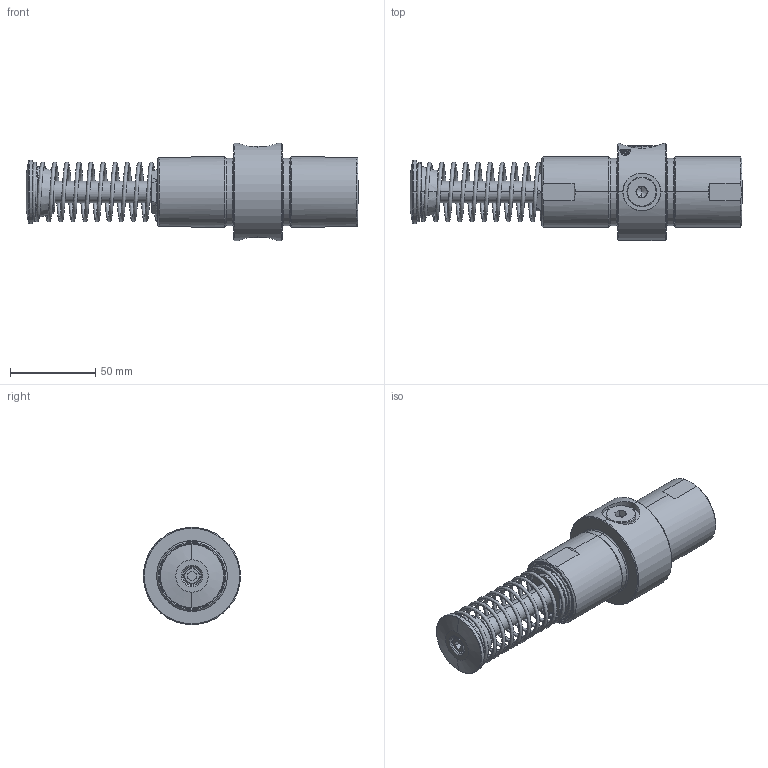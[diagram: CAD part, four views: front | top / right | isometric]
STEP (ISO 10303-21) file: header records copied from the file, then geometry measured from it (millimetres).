
FILE_DESCRIPTION (( 'STEP AP203' ), '1' );
FILE_NAME ('OEMXT 1.5M X 2.STEP', '2010-03-09T13:42:23', ( ' ' ), ( '' ), 'SwSTEP 2.0', 'SolidWorks 2006233', '' );
FILE_SCHEMA (( 'CONFIG_CONTROL_DESIGN' ));
Length unit declared in the file: inch
Products named in the file (1): OEMXT 1.5M X 2
Bounding box: 195.05 x 57.02 x 57.02 mm (x, y, z)
Volume: 115370.6 mm3; surface area: 60181.9 mm2
Topology: 13 solids, 13 shells, 664 faces, 1581 edges, 977 vertices
Faces by surface type: plane 237, cylinder 136, cone 126, bspline 106, torus 59
Entity records: 30651 total; most frequent: CARTESIAN_POINT 15879, ORIENTED_EDGE 3126, DIRECTION 2850, EDGE_CURVE 1563, AXIS2_PLACEMENT_3D 1042, VERTEX_POINT 977, VECTOR 766, LINE 766
